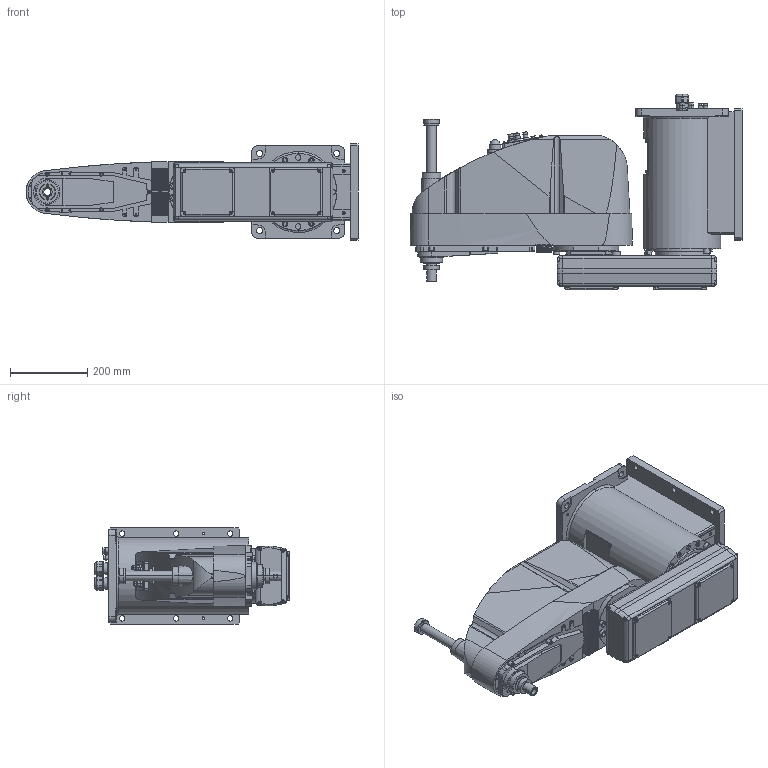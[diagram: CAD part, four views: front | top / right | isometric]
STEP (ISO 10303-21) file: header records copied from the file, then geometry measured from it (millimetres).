
FILE_DESCRIPTION( ( '' ), '1' );
FILE_NAME( '//expscmdclustefs.cadenas.external/client_exchange/iodir/jobs/output/wkb51513022_no0/STEP/G10_651SW_2_03.stp', '2012-11-22T15:50:41', ( '' ), ( '' ), ' ', ' ', ' ' );
FILE_SCHEMA( ( 'CONFIG_CONTROL_DESIGN' ) );
Length unit declared in the file: millimetre
Products named in the file (4): 1; 2; 3; 4
Bounding box: 860.5 x 506.5 x 250 mm (x, y, z)
Volume: 39733130.6 mm3; surface area: 1440272.8 mm2
Topology: 4 solids, 4 shells, 1988 faces, 4862 edges, 3161 vertices
Faces by surface type: plane 1098, cylinder 666, cone 196, torus 27, sphere 1
Entity records: 59923 total; most frequent: CARTESIAN_POINT 11554, DIRECTION 10335, ORIENTED_EDGE 9700, EDGE_CURVE 4850, AXIS2_PLACEMENT_3D 3616, VERTEX_POINT 3161, LINE 3103, VECTOR 3103
